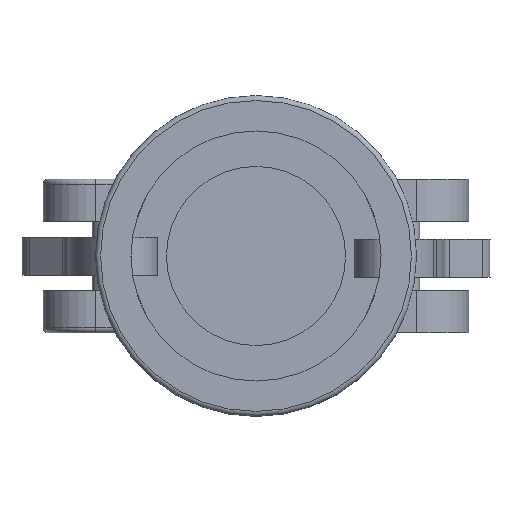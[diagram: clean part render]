
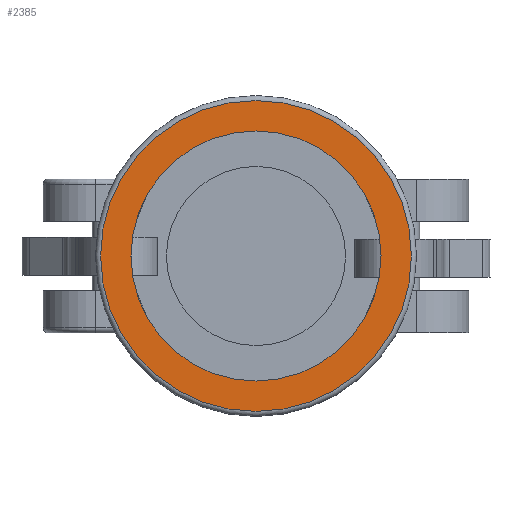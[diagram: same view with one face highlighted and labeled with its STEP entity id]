
A CAD part, left-side view. The second image highlights one B-rep face of the part: STEP entity #2385.
In plain terms, the highlighted planar face has unit normal (-1, 0, 0) as drawn and (1, 0, 0) by its records, which use the part's own axes.
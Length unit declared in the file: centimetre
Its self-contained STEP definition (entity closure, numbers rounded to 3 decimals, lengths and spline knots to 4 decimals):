
#962=VERTEX_POINT('',#3636);
#1029=VERTEX_POINT('',#4191);
#1118=CIRCLE('',#2544,1.8796);
#1142=CIRCLE('',#2584,2.3368);
#1290=EDGE_CURVE('',#962,#962,#1118,.T.);
#1373=EDGE_CURVE('',#1029,#1029,#1142,.T.);
#1792=ORIENTED_EDGE('',*,*,#1290,.T.);
#1793=ORIENTED_EDGE('',*,*,#1373,.F.);
#2080=EDGE_LOOP('',(#1792));
#2081=EDGE_LOOP('',(#1793));
#2256=FACE_BOUND('',#2080,.T.);
#2257=FACE_BOUND('',#2081,.T.);
#2385=ADVANCED_FACE('',(#2256,#2257),#4602,.T.);
#2544=AXIS2_PLACEMENT_3D('',#3635,#2909,#2910);
#2584=AXIS2_PLACEMENT_3D('',#4190,#3007,#3008);
#2585=AXIS2_PLACEMENT_3D('',#4192,#3009,$);
#2909=DIRECTION('',(-1.,0.,0.));
#2910=DIRECTION('',(0.,0.,-1.88));
#3007=DIRECTION('',(-1.,0.,0.));
#3008=DIRECTION('',(0.,0.,2.337));
#3009=DIRECTION('',(1.,0.,0.));
#3635=CARTESIAN_POINT('',(0.,0.,0.));
#3636=CARTESIAN_POINT('',(0.,0.,-1.8796));
#4190=CARTESIAN_POINT('',(0.,0.,0.));
#4191=CARTESIAN_POINT('',(0.,0.,-2.3368));
#4192=CARTESIAN_POINT('',(0.,0.,0.));
#4602=PLANE('',#2585);
